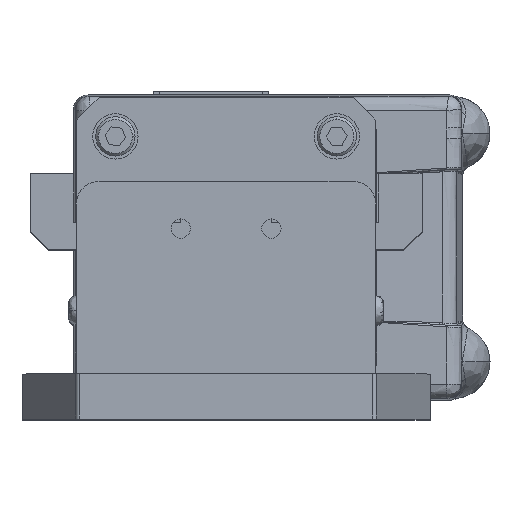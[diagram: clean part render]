
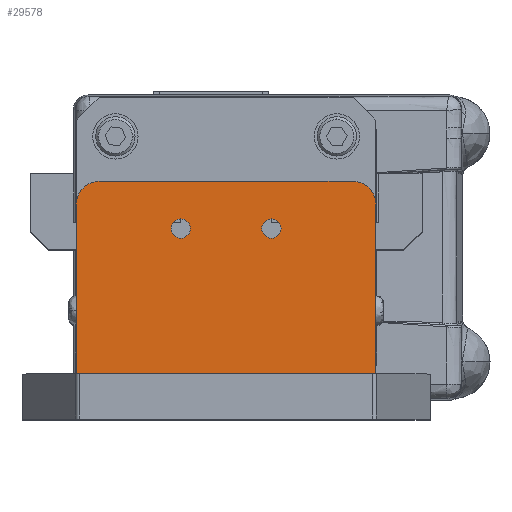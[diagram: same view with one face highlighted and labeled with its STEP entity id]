
A CAD part, top view. The second image highlights one B-rep face of the part: STEP entity #29578.
In plain terms, the highlighted planar face has unit normal (0, 0, 1).
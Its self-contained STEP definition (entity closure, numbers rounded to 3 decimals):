
#1914 = CARTESIAN_POINT ( 'NONE',  ( 0., 30.099, 109.22 ) ) ;
#4740 = DIRECTION ( 'NONE',  ( 1., 0., 0. ) ) ;
#4992 = CARTESIAN_POINT ( 'NONE',  ( 41.91, 33.274, 109.22 ) ) ;
#5012 = PLANE ( 'NONE',  #64181 ) ;
#7358 = VERTEX_POINT ( 'NONE', #47592 ) ;
#8461 = FACE_BOUND ( 'NONE', #47271, .T. ) ;
#8613 = FACE_OUTER_BOUND ( 'NONE', #48439, .T. ) ;
#10466 = DIRECTION ( 'NONE',  ( 0., 0., 1. ) ) ;
#11023 = FACE_BOUND ( 'NONE', #48184, .T. ) ;
#13616 = DIRECTION ( 'NONE',  ( 1., 0., 0. ) ) ;
#14397 = DIRECTION ( 'NONE',  ( 0., 0., -1. ) ) ;
#14463 = CARTESIAN_POINT ( 'NONE',  ( 27.305, 26.67, 109.22 ) ) ;
#16328 = EDGE_CURVE ( 'NONE', #24135, #20683, #29041, .T. ) ;
#16768 = EDGE_CURVE ( 'NONE', #26549, #7358, #27897, .T. ) ;
#16969 = DIRECTION ( 'NONE',  ( 1., 0., 0. ) ) ;
#17155 = DIRECTION ( 'NONE',  ( 0., 0., 1. ) ) ;
#17210 = CARTESIAN_POINT ( 'NONE',  ( 38.735, 30.099, 109.22 ) ) ;
#20529 = VERTEX_POINT ( 'NONE', #38119 ) ;
#20683 = VERTEX_POINT ( 'NONE', #36389 ) ;
#23154 = DIRECTION ( 'NONE',  ( 1., 0., 0. ) ) ;
#23231 = DIRECTION ( 'NONE',  ( 0., 0., -1. ) ) ;
#23324 = CARTESIAN_POINT ( 'NONE',  ( 14.605, 26.67, 109.22 ) ) ;
#24135 = VERTEX_POINT ( 'NONE', #51948 ) ;
#24912 = VERTEX_POINT ( 'NONE', #1914 ) ;
#25077 = ORIENTED_EDGE ( 'NONE', *, *, #25993, .T. ) ;
#25233 = EDGE_CURVE ( 'NONE', #7358, #26549, #50495, .T. ) ;
#25362 = EDGE_CURVE ( 'NONE', #20683, #24135, #49079, .T. ) ;
#25463 = EDGE_CURVE ( 'NONE', #20529, #66533, #47494, .T. ) ;
#25565 = EDGE_CURVE ( 'NONE', #66533, #24912, #46326, .T. ) ;
#25777 = EDGE_CURVE ( 'NONE', #24912, #42244, #43905, .T. ) ;
#25842 = ORIENTED_EDGE ( 'NONE', *, *, #26189, .T. ) ;
#25899 = EDGE_CURVE ( 'NONE', #42244, #57240, #43549, .T. ) ;
#25993 = EDGE_CURVE ( 'NONE', #57240, #72316, #42966, .T. ) ;
#25994 = ORIENTED_EDGE ( 'NONE', *, *, #25463, .T. ) ;
#26158 = DIRECTION ( 'NONE',  ( 0., 1., 0. ) ) ;
#26189 = EDGE_CURVE ( 'NONE', #72316, #20529, #41159, .T. ) ;
#26549 = VERTEX_POINT ( 'NONE', #44876 ) ;
#27467 = DIRECTION ( 'NONE',  ( 1., 0., 0. ) ) ;
#27557 = CARTESIAN_POINT ( 'NONE',  ( 41.91, 33.274, 109.22 ) ) ;
#27897 = CIRCLE ( 'NONE', #61296, 1.353 ) ;
#27985 = ORIENTED_EDGE ( 'NONE', *, *, #25565, .T. ) ;
#28042 = CARTESIAN_POINT ( 'NONE',  ( 41.91, 6.35, 109.22 ) ) ;
#28706 = ORIENTED_EDGE ( 'NONE', *, *, #25777, .T. ) ;
#29041 = CIRCLE ( 'NONE', #63675, 1.353 ) ;
#29133 = ORIENTED_EDGE ( 'NONE', *, *, #25899, .T. ) ;
#29362 = ORIENTED_EDGE ( 'NONE', *, *, #16328, .T. ) ;
#29578 = ADVANCED_FACE ( 'NONE', ( #8613, #11023, #8461 ), #5012, .T. ) ;
#32025 = ORIENTED_EDGE ( 'NONE', *, *, #25362, .T. ) ;
#32539 = ORIENTED_EDGE ( 'NONE', *, *, #16768, .T. ) ;
#32683 = ORIENTED_EDGE ( 'NONE', *, *, #25233, .T. ) ;
#36389 = CARTESIAN_POINT ( 'NONE',  ( 25.952, 26.67, 109.22 ) ) ;
#38119 = CARTESIAN_POINT ( 'NONE',  ( 38.735, 33.274, 109.22 ) ) ;
#41159 = CIRCLE ( 'NONE', #71104, 3.175 ) ;
#42244 = VERTEX_POINT ( 'NONE', #52560 ) ;
#42619 = VECTOR ( 'NONE', #26158, 1000. ) ;
#42884 = VECTOR ( 'NONE', #27467, 1000. ) ;
#42966 = LINE ( 'NONE', #27557, #42619 ) ;
#43549 = LINE ( 'NONE', #28042, #42884 ) ;
#43905 = LINE ( 'NONE', #48350, #44440 ) ;
#44440 = VECTOR ( 'NONE', #48272, 1000. ) ;
#44876 = CARTESIAN_POINT ( 'NONE',  ( 15.958, 26.67, 109.22 ) ) ;
#46326 = CIRCLE ( 'NONE', #72162, 3.175 ) ;
#47253 = VECTOR ( 'NONE', #72490, 1000. ) ;
#47271 = EDGE_LOOP ( 'NONE', ( #32539, #32683 ) ) ;
#47494 = LINE ( 'NONE', #72569, #47253 ) ;
#47592 = CARTESIAN_POINT ( 'NONE',  ( 13.252, 26.67, 109.22 ) ) ;
#48184 = EDGE_LOOP ( 'NONE', ( #29362, #32025 ) ) ;
#48272 = DIRECTION ( 'NONE',  ( 0., -1., 0. ) ) ;
#48350 = CARTESIAN_POINT ( 'NONE',  ( 0., 33.274, 109.22 ) ) ;
#48439 = EDGE_LOOP ( 'NONE', ( #25077, #25842, #25994, #27985, #28706, #29133 ) ) ;
#49079 = CIRCLE ( 'NONE', #72409, 1.353 ) ;
#50495 = CIRCLE ( 'NONE', #72754, 1.353 ) ;
#51948 = CARTESIAN_POINT ( 'NONE',  ( 28.658, 26.67, 109.22 ) ) ;
#52560 = CARTESIAN_POINT ( 'NONE',  ( 0., 6.35, 109.22 ) ) ;
#57240 = VERTEX_POINT ( 'NONE', #74817 ) ;
#61296 = AXIS2_PLACEMENT_3D ( 'NONE', #62974, #62964, #62805 ) ;
#62805 = DIRECTION ( 'NONE',  ( 1., 0., 0. ) ) ;
#62964 = DIRECTION ( 'NONE',  ( 0., 0., -1. ) ) ;
#62974 = CARTESIAN_POINT ( 'NONE',  ( 14.605, 26.67, 109.22 ) ) ;
#63675 = AXIS2_PLACEMENT_3D ( 'NONE', #14463, #14397, #13616 ) ;
#64181 = AXIS2_PLACEMENT_3D ( 'NONE', #4992, #10466, #4740 ) ;
#66533 = VERTEX_POINT ( 'NONE', #68887 ) ;
#68150 = DIRECTION ( 'NONE',  ( 1., 0., 0. ) ) ;
#68249 = DIRECTION ( 'NONE',  ( 0., 0., 1. ) ) ;
#68313 = CARTESIAN_POINT ( 'NONE',  ( 3.175, 30.099, 109.22 ) ) ;
#68887 = CARTESIAN_POINT ( 'NONE',  ( 3.175, 33.274, 109.22 ) ) ;
#71104 = AXIS2_PLACEMENT_3D ( 'NONE', #17210, #17155, #16969 ) ;
#72162 = AXIS2_PLACEMENT_3D ( 'NONE', #68313, #68249, #68150 ) ;
#72316 = VERTEX_POINT ( 'NONE', #75122 ) ;
#72409 = AXIS2_PLACEMENT_3D ( 'NONE', #75235, #75172, #74982 ) ;
#72490 = DIRECTION ( 'NONE',  ( -1., 0., 0. ) ) ;
#72569 = CARTESIAN_POINT ( 'NONE',  ( 41.91, 33.274, 109.22 ) ) ;
#72754 = AXIS2_PLACEMENT_3D ( 'NONE', #23324, #23231, #23154 ) ;
#74817 = CARTESIAN_POINT ( 'NONE',  ( 41.91, 6.35, 109.22 ) ) ;
#74982 = DIRECTION ( 'NONE',  ( 1., 0., 0. ) ) ;
#75122 = CARTESIAN_POINT ( 'NONE',  ( 41.91, 30.099, 109.22 ) ) ;
#75172 = DIRECTION ( 'NONE',  ( 0., 0., -1. ) ) ;
#75235 = CARTESIAN_POINT ( 'NONE',  ( 27.305, 26.67, 109.22 ) ) ;
